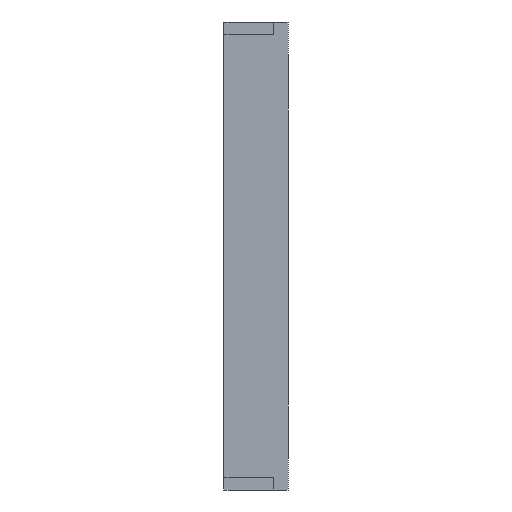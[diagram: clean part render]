
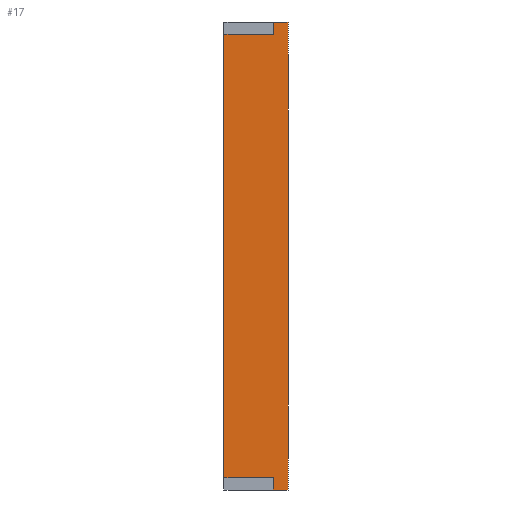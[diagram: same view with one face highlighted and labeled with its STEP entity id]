
A CAD part, left-side view. The second image highlights one B-rep face of the part: STEP entity #17.
In plain terms, the highlighted planar face has unit normal (-1, 0, 0).
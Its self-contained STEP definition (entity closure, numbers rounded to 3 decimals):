
#17 = ADVANCED_FACE('',(#18),#32,.F.);
#18 = FACE_BOUND('',#19,.F.);
#19 = EDGE_LOOP('',(#20,#55,#83,#111,#139,#167,#195,#223));
#20 = ORIENTED_EDGE('',*,*,#21,.F.);
#21 = EDGE_CURVE('',#22,#24,#26,.T.);
#22 = VERTEX_POINT('',#23);
#23 = CARTESIAN_POINT('',(-86.,45.1,83.));
#24 = VERTEX_POINT('',#25);
#25 = CARTESIAN_POINT('',(-86.,47.5,83.));
#26 = SURFACE_CURVE('',#27,(#31,#43),.PCURVE_S1.);
#27 = LINE('',#28,#29);
#28 = CARTESIAN_POINT('',(-86.,45.1,83.));
#29 = VECTOR('',#30,1.);
#30 = DIRECTION('',(-0.,1.,0.));
#31 = PCURVE('',#32,#37);
#32 = PLANE('',#33);
#33 = AXIS2_PLACEMENT_3D('',#34,#35,#36);
#34 = CARTESIAN_POINT('',(-86.,45.1,7.));
#35 = DIRECTION('',(1.,0.,-0.));
#36 = DIRECTION('',(0.,0.,1.));
#37 = DEFINITIONAL_REPRESENTATION('',(#38),#42);
#38 = LINE('',#39,#40);
#39 = CARTESIAN_POINT('',(76.,0.));
#40 = VECTOR('',#41,1.);
#41 = DIRECTION('',(0.,-1.));
#42 = ( GEOMETRIC_REPRESENTATION_CONTEXT(2) 
PARAMETRIC_REPRESENTATION_CONTEXT() REPRESENTATION_CONTEXT('2D SPACE',''
  ) );
#43 = PCURVE('',#44,#49);
#44 = PLANE('',#45);
#45 = AXIS2_PLACEMENT_3D('',#46,#47,#48);
#46 = CARTESIAN_POINT('',(-86.,45.1,83.));
#47 = DIRECTION('',(0.,0.,1.));
#48 = DIRECTION('',(1.,0.,-0.));
#49 = DEFINITIONAL_REPRESENTATION('',(#50),#54);
#50 = LINE('',#51,#52);
#51 = CARTESIAN_POINT('',(0.,0.));
#52 = VECTOR('',#53,1.);
#53 = DIRECTION('',(0.,1.));
#54 = ( GEOMETRIC_REPRESENTATION_CONTEXT(2) 
PARAMETRIC_REPRESENTATION_CONTEXT() REPRESENTATION_CONTEXT('2D SPACE',''
  ) );
#55 = ORIENTED_EDGE('',*,*,#56,.F.);
#56 = EDGE_CURVE('',#57,#22,#59,.T.);
#57 = VERTEX_POINT('',#58);
#58 = CARTESIAN_POINT('',(-86.,45.1,7.));
#59 = SURFACE_CURVE('',#60,(#64,#71),.PCURVE_S1.);
#60 = LINE('',#61,#62);
#61 = CARTESIAN_POINT('',(-86.,45.1,7.));
#62 = VECTOR('',#63,1.);
#63 = DIRECTION('',(0.,0.,1.));
#64 = PCURVE('',#32,#65);
#65 = DEFINITIONAL_REPRESENTATION('',(#66),#70);
#66 = LINE('',#67,#68);
#67 = CARTESIAN_POINT('',(0.,0.));
#68 = VECTOR('',#69,1.);
#69 = DIRECTION('',(1.,0.));
#70 = ( GEOMETRIC_REPRESENTATION_CONTEXT(2) 
PARAMETRIC_REPRESENTATION_CONTEXT() REPRESENTATION_CONTEXT('2D SPACE',''
  ) );
#71 = PCURVE('',#72,#77);
#72 = PLANE('',#73);
#73 = AXIS2_PLACEMENT_3D('',#74,#75,#76);
#74 = CARTESIAN_POINT('',(-86.,45.1,7.));
#75 = DIRECTION('',(-0.,1.,0.));
#76 = DIRECTION('',(0.,0.,1.));
#77 = DEFINITIONAL_REPRESENTATION('',(#78),#82);
#78 = LINE('',#79,#80);
#79 = CARTESIAN_POINT('',(0.,0.));
#80 = VECTOR('',#81,1.);
#81 = DIRECTION('',(1.,0.));
#82 = ( GEOMETRIC_REPRESENTATION_CONTEXT(2) 
PARAMETRIC_REPRESENTATION_CONTEXT() REPRESENTATION_CONTEXT('2D SPACE',''
  ) );
#83 = ORIENTED_EDGE('',*,*,#84,.T.);
#84 = EDGE_CURVE('',#57,#85,#87,.T.);
#85 = VERTEX_POINT('',#86);
#86 = CARTESIAN_POINT('',(-86.,47.5,7.));
#87 = SURFACE_CURVE('',#88,(#92,#99),.PCURVE_S1.);
#88 = LINE('',#89,#90);
#89 = CARTESIAN_POINT('',(-86.,45.1,7.));
#90 = VECTOR('',#91,1.);
#91 = DIRECTION('',(-0.,1.,0.));
#92 = PCURVE('',#32,#93);
#93 = DEFINITIONAL_REPRESENTATION('',(#94),#98);
#94 = LINE('',#95,#96);
#95 = CARTESIAN_POINT('',(0.,0.));
#96 = VECTOR('',#97,1.);
#97 = DIRECTION('',(0.,-1.));
#98 = ( GEOMETRIC_REPRESENTATION_CONTEXT(2) 
PARAMETRIC_REPRESENTATION_CONTEXT() REPRESENTATION_CONTEXT('2D SPACE',''
  ) );
#99 = PCURVE('',#100,#105);
#100 = PLANE('',#101);
#101 = AXIS2_PLACEMENT_3D('',#102,#103,#104);
#102 = CARTESIAN_POINT('',(-86.,45.1,7.));
#103 = DIRECTION('',(0.,0.,1.));
#104 = DIRECTION('',(1.,0.,-0.));
#105 = DEFINITIONAL_REPRESENTATION('',(#106),#110);
#106 = LINE('',#107,#108);
#107 = CARTESIAN_POINT('',(0.,0.));
#108 = VECTOR('',#109,1.);
#109 = DIRECTION('',(0.,1.));
#110 = ( GEOMETRIC_REPRESENTATION_CONTEXT(2) 
PARAMETRIC_REPRESENTATION_CONTEXT() REPRESENTATION_CONTEXT('2D SPACE',''
  ) );
#111 = ORIENTED_EDGE('',*,*,#112,.T.);
#112 = EDGE_CURVE('',#85,#113,#115,.T.);
#113 = VERTEX_POINT('',#114);
#114 = CARTESIAN_POINT('',(-86.,47.5,9.));
#115 = SURFACE_CURVE('',#116,(#120,#127),.PCURVE_S1.);
#116 = LINE('',#117,#118);
#117 = CARTESIAN_POINT('',(-86.,47.5,7.));
#118 = VECTOR('',#119,1.);
#119 = DIRECTION('',(0.,0.,1.));
#120 = PCURVE('',#32,#121);
#121 = DEFINITIONAL_REPRESENTATION('',(#122),#126);
#122 = LINE('',#123,#124);
#123 = CARTESIAN_POINT('',(0.,-2.4));
#124 = VECTOR('',#125,1.);
#125 = DIRECTION('',(1.,0.));
#126 = ( GEOMETRIC_REPRESENTATION_CONTEXT(2) 
PARAMETRIC_REPRESENTATION_CONTEXT() REPRESENTATION_CONTEXT('2D SPACE',''
  ) );
#127 = PCURVE('',#128,#133);
#128 = PLANE('',#129);
#129 = AXIS2_PLACEMENT_3D('',#130,#131,#132);
#130 = CARTESIAN_POINT('',(-86.,47.5,7.));
#131 = DIRECTION('',(-0.,1.,0.));
#132 = DIRECTION('',(0.,0.,1.));
#133 = DEFINITIONAL_REPRESENTATION('',(#134),#138);
#134 = LINE('',#135,#136);
#135 = CARTESIAN_POINT('',(0.,0.));
#136 = VECTOR('',#137,1.);
#137 = DIRECTION('',(1.,0.));
#138 = ( GEOMETRIC_REPRESENTATION_CONTEXT(2) 
PARAMETRIC_REPRESENTATION_CONTEXT() REPRESENTATION_CONTEXT('2D SPACE',''
  ) );
#139 = ORIENTED_EDGE('',*,*,#140,.T.);
#140 = EDGE_CURVE('',#113,#141,#143,.T.);
#141 = VERTEX_POINT('',#142);
#142 = CARTESIAN_POINT('',(-86.,55.5,9.));
#143 = SURFACE_CURVE('',#144,(#148,#155),.PCURVE_S1.);
#144 = LINE('',#145,#146);
#145 = CARTESIAN_POINT('',(-86.,47.4,9.));
#146 = VECTOR('',#147,1.);
#147 = DIRECTION('',(-0.,1.,0.));
#148 = PCURVE('',#32,#149);
#149 = DEFINITIONAL_REPRESENTATION('',(#150),#154);
#150 = LINE('',#151,#152);
#151 = CARTESIAN_POINT('',(2.,-2.3));
#152 = VECTOR('',#153,1.);
#153 = DIRECTION('',(0.,-1.));
#154 = ( GEOMETRIC_REPRESENTATION_CONTEXT(2) 
PARAMETRIC_REPRESENTATION_CONTEXT() REPRESENTATION_CONTEXT('2D SPACE',''
  ) );
#155 = PCURVE('',#156,#161);
#156 = PLANE('',#157);
#157 = AXIS2_PLACEMENT_3D('',#158,#159,#160);
#158 = CARTESIAN_POINT('',(-86.,47.4,9.));
#159 = DIRECTION('',(0.,0.,1.));
#160 = DIRECTION('',(1.,0.,-0.));
#161 = DEFINITIONAL_REPRESENTATION('',(#162),#166);
#162 = LINE('',#163,#164);
#163 = CARTESIAN_POINT('',(0.,0.));
#164 = VECTOR('',#165,1.);
#165 = DIRECTION('',(0.,1.));
#166 = ( GEOMETRIC_REPRESENTATION_CONTEXT(2) 
PARAMETRIC_REPRESENTATION_CONTEXT() REPRESENTATION_CONTEXT('2D SPACE',''
  ) );
#167 = ORIENTED_EDGE('',*,*,#168,.T.);
#168 = EDGE_CURVE('',#141,#169,#171,.T.);
#169 = VERTEX_POINT('',#170);
#170 = CARTESIAN_POINT('',(-86.,55.5,81.));
#171 = SURFACE_CURVE('',#172,(#176,#183),.PCURVE_S1.);
#172 = LINE('',#173,#174);
#173 = CARTESIAN_POINT('',(-86.,55.5,9.));
#174 = VECTOR('',#175,1.);
#175 = DIRECTION('',(0.,0.,1.));
#176 = PCURVE('',#32,#177);
#177 = DEFINITIONAL_REPRESENTATION('',(#178),#182);
#178 = LINE('',#179,#180);
#179 = CARTESIAN_POINT('',(2.,-10.4));
#180 = VECTOR('',#181,1.);
#181 = DIRECTION('',(1.,0.));
#182 = ( GEOMETRIC_REPRESENTATION_CONTEXT(2) 
PARAMETRIC_REPRESENTATION_CONTEXT() REPRESENTATION_CONTEXT('2D SPACE',''
  ) );
#183 = PCURVE('',#184,#189);
#184 = PLANE('',#185);
#185 = AXIS2_PLACEMENT_3D('',#186,#187,#188);
#186 = CARTESIAN_POINT('',(-82.,55.5,79.));
#187 = DIRECTION('',(-0.,1.,0.));
#188 = DIRECTION('',(0.,0.,1.));
#189 = DEFINITIONAL_REPRESENTATION('',(#190),#194);
#190 = LINE('',#191,#192);
#191 = CARTESIAN_POINT('',(-70.,-4.));
#192 = VECTOR('',#193,1.);
#193 = DIRECTION('',(1.,0.));
#194 = ( GEOMETRIC_REPRESENTATION_CONTEXT(2) 
PARAMETRIC_REPRESENTATION_CONTEXT() REPRESENTATION_CONTEXT('2D SPACE',''
  ) );
#195 = ORIENTED_EDGE('',*,*,#196,.F.);
#196 = EDGE_CURVE('',#197,#169,#199,.T.);
#197 = VERTEX_POINT('',#198);
#198 = CARTESIAN_POINT('',(-86.,47.5,81.));
#199 = SURFACE_CURVE('',#200,(#204,#211),.PCURVE_S1.);
#200 = LINE('',#201,#202);
#201 = CARTESIAN_POINT('',(-86.,47.4,81.));
#202 = VECTOR('',#203,1.);
#203 = DIRECTION('',(-0.,1.,0.));
#204 = PCURVE('',#32,#205);
#205 = DEFINITIONAL_REPRESENTATION('',(#206),#210);
#206 = LINE('',#207,#208);
#207 = CARTESIAN_POINT('',(74.,-2.3));
#208 = VECTOR('',#209,1.);
#209 = DIRECTION('',(0.,-1.));
#210 = ( GEOMETRIC_REPRESENTATION_CONTEXT(2) 
PARAMETRIC_REPRESENTATION_CONTEXT() REPRESENTATION_CONTEXT('2D SPACE',''
  ) );
#211 = PCURVE('',#212,#217);
#212 = PLANE('',#213);
#213 = AXIS2_PLACEMENT_3D('',#214,#215,#216);
#214 = CARTESIAN_POINT('',(-86.,47.4,81.));
#215 = DIRECTION('',(0.,0.,1.));
#216 = DIRECTION('',(1.,0.,-0.));
#217 = DEFINITIONAL_REPRESENTATION('',(#218),#222);
#218 = LINE('',#219,#220);
#219 = CARTESIAN_POINT('',(0.,0.));
#220 = VECTOR('',#221,1.);
#221 = DIRECTION('',(0.,1.));
#222 = ( GEOMETRIC_REPRESENTATION_CONTEXT(2) 
PARAMETRIC_REPRESENTATION_CONTEXT() REPRESENTATION_CONTEXT('2D SPACE',''
  ) );
#223 = ORIENTED_EDGE('',*,*,#224,.T.);
#224 = EDGE_CURVE('',#197,#24,#225,.T.);
#225 = SURFACE_CURVE('',#226,(#230,#237),.PCURVE_S1.);
#226 = LINE('',#227,#228);
#227 = CARTESIAN_POINT('',(-86.,47.5,7.));
#228 = VECTOR('',#229,1.);
#229 = DIRECTION('',(0.,0.,1.));
#230 = PCURVE('',#32,#231);
#231 = DEFINITIONAL_REPRESENTATION('',(#232),#236);
#232 = LINE('',#233,#234);
#233 = CARTESIAN_POINT('',(0.,-2.4));
#234 = VECTOR('',#235,1.);
#235 = DIRECTION('',(1.,0.));
#236 = ( GEOMETRIC_REPRESENTATION_CONTEXT(2) 
PARAMETRIC_REPRESENTATION_CONTEXT() REPRESENTATION_CONTEXT('2D SPACE',''
  ) );
#237 = PCURVE('',#238,#243);
#238 = PLANE('',#239);
#239 = AXIS2_PLACEMENT_3D('',#240,#241,#242);
#240 = CARTESIAN_POINT('',(-86.,47.5,7.));
#241 = DIRECTION('',(-0.,1.,0.));
#242 = DIRECTION('',(0.,0.,1.));
#243 = DEFINITIONAL_REPRESENTATION('',(#244),#248);
#244 = LINE('',#245,#246);
#245 = CARTESIAN_POINT('',(0.,0.));
#246 = VECTOR('',#247,1.);
#247 = DIRECTION('',(1.,0.));
#248 = ( GEOMETRIC_REPRESENTATION_CONTEXT(2) 
PARAMETRIC_REPRESENTATION_CONTEXT() REPRESENTATION_CONTEXT('2D SPACE',''
  ) );
